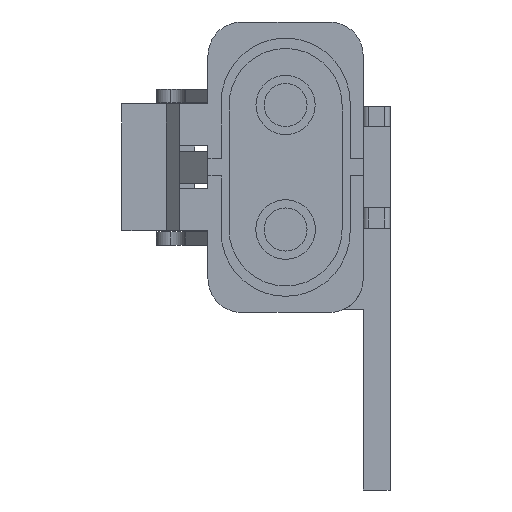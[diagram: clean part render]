
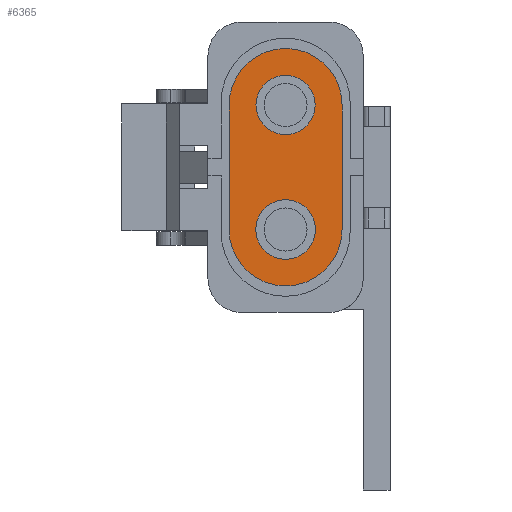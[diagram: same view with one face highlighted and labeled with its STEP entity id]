
A CAD part, front view. The second image highlights one B-rep face of the part: STEP entity #6365.
In plain terms, the highlighted planar face has unit normal (0, -1, 0).
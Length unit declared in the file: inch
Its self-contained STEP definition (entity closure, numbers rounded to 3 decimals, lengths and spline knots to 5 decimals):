
#339=FACE_BOUND('',#1017,.T.);
#340=FACE_BOUND('',#1018,.T.);
#452=CIRCLE('',#6885,0.11);
#454=CIRCLE('',#6889,0.111);
#456=CIRCLE('',#6893,0.21);
#458=CIRCLE('',#6897,0.21);
#650=FACE_OUTER_BOUND('',#1016,.T.);
#1016=EDGE_LOOP('',(#4560,#4561,#4562,#4563));
#1017=EDGE_LOOP('',(#4564));
#1018=EDGE_LOOP('',(#4565));
#1464=LINE('',#9293,#2081);
#1468=LINE('',#9303,#2085);
#2081=VECTOR('',#7754,0.3937);
#2085=VECTOR('',#7766,0.3937);
#2690=VERTEX_POINT('',#9269);
#2692=VERTEX_POINT('',#9276);
#2695=VERTEX_POINT('',#9284);
#2696=VERTEX_POINT('',#9286);
#2698=VERTEX_POINT('',#9292);
#2700=VERTEX_POINT('',#9298);
#3387=EDGE_CURVE('',#2690,#2690,#452,.T.);
#3390=EDGE_CURVE('',#2692,#2692,#454,.T.);
#3393=EDGE_CURVE('',#2696,#2695,#456,.T.);
#3396=EDGE_CURVE('',#2698,#2696,#1464,.T.);
#3399=EDGE_CURVE('',#2700,#2698,#458,.T.);
#3402=EDGE_CURVE('',#2695,#2700,#1468,.T.);
#4560=ORIENTED_EDGE('',*,*,#3402,.T.);
#4561=ORIENTED_EDGE('',*,*,#3399,.T.);
#4562=ORIENTED_EDGE('',*,*,#3396,.T.);
#4563=ORIENTED_EDGE('',*,*,#3393,.T.);
#4564=ORIENTED_EDGE('',*,*,#3387,.T.);
#4565=ORIENTED_EDGE('',*,*,#3390,.T.);
#5983=PLANE('',#6899);
#6365=ADVANCED_FACE('',(#650,#339,#340),#5983,.F.);
#6885=AXIS2_PLACEMENT_3D('',#9271,#7730,#7731);
#6889=AXIS2_PLACEMENT_3D('',#9278,#7739,#7740);
#6893=AXIS2_PLACEMENT_3D('',#9287,#7748,#7749);
#6897=AXIS2_PLACEMENT_3D('',#9299,#7760,#7761);
#6899=AXIS2_PLACEMENT_3D('',#9304,#7767,#7768);
#7730=DIRECTION('center_axis',(0.,1.,0.));
#7731=DIRECTION('ref_axis',(-1.,0.,0.));
#7739=DIRECTION('center_axis',(0.,1.,0.));
#7740=DIRECTION('ref_axis',(-1.,0.,0.));
#7748=DIRECTION('center_axis',(0.,-1.,0.));
#7749=DIRECTION('ref_axis',(1.,0.,0.));
#7754=DIRECTION('',(0.,0.,1.));
#7760=DIRECTION('center_axis',(0.,-1.,0.));
#7761=DIRECTION('ref_axis',(-1.,0.,0.));
#7766=DIRECTION('',(0.,0.,-1.));
#7767=DIRECTION('center_axis',(0.,1.,0.));
#7768=DIRECTION('ref_axis',(0.,0.,1.));
#9269=CARTESIAN_POINT('',(0.11,-1.24,0.2315));
#9271=CARTESIAN_POINT('Origin',(0.,-1.24,0.2315));
#9276=CARTESIAN_POINT('',(0.111,-1.24,-0.2315));
#9278=CARTESIAN_POINT('Origin',(0.,-1.24,-0.2315));
#9284=CARTESIAN_POINT('',(-0.21,-1.24,0.2315));
#9286=CARTESIAN_POINT('',(0.21,-1.24,0.2315));
#9287=CARTESIAN_POINT('Origin',(0.,-1.24,0.2315));
#9292=CARTESIAN_POINT('',(0.21,-1.24,-0.2315));
#9293=CARTESIAN_POINT('',(0.21,-1.24,-0.2315));
#9298=CARTESIAN_POINT('',(-0.21,-1.24,-0.2315));
#9299=CARTESIAN_POINT('Origin',(0.,-1.24,-0.2315));
#9303=CARTESIAN_POINT('',(-0.21,-1.24,0.2315));
#9304=CARTESIAN_POINT('Origin',(0.,-1.24,0.));
